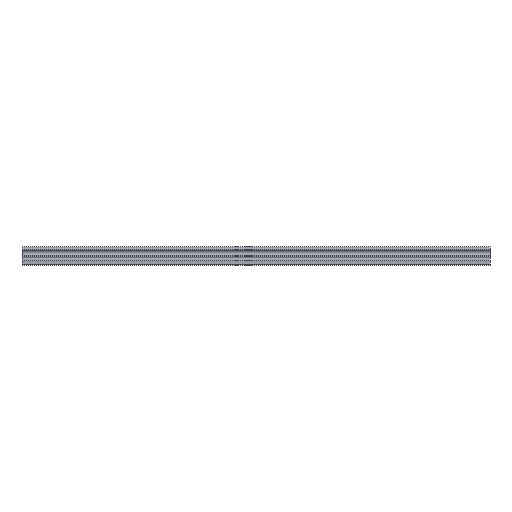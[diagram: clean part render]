
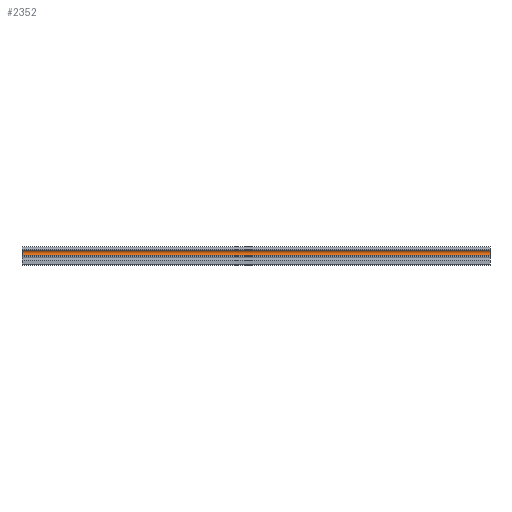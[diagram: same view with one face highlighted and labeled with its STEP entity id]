
A CAD part, top view. The second image highlights one B-rep face of the part: STEP entity #2352.
In plain terms, the highlighted cylindrical face has radius 2.82 mm (diameter 5.64 mm), a partial arc.
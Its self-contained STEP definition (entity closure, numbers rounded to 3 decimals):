
#79 = EDGE_CURVE ( 'NONE', #1572, #2578, #2836, .T. ) ;
#86 = EDGE_CURVE ( 'NONE', #1780, #2578, #1740, .T. ) ;
#142 = EDGE_CURVE ( 'NONE', #1203, #1572, #443, .T. ) ;
#202 = CIRCLE ( 'NONE', #1167, 2.82 ) ;
#218 = ORIENTED_EDGE ( 'NONE', *, *, #86, .F. ) ;
#232 = CARTESIAN_POINT ( 'NONE',  ( 480., 15.498, 8.85 ) ) ;
#270 = ORIENTED_EDGE ( 'NONE', *, *, #1609, .F. ) ;
#326 = CARTESIAN_POINT ( 'NONE',  ( 0., 9.902, 8.85 ) ) ;
#371 = FACE_OUTER_BOUND ( 'NONE', #701, .T. ) ;
#401 = DIRECTION ( 'NONE',  ( -1., 0., 0. ) ) ;
#428 = AXIS2_PLACEMENT_3D ( 'NONE', #1935, #1889, #1234 ) ;
#443 = LINE ( 'NONE', #232, #1953 ) ;
#701 = EDGE_LOOP ( 'NONE', ( #1984, #218, #270, #2774 ) ) ;
#937 = DIRECTION ( 'NONE',  ( -1., 0., 0. ) ) ;
#995 = CYLINDRICAL_SURFACE ( 'NONE', #428, 2.82 ) ;
#1079 = DIRECTION ( 'NONE',  ( -1., 0., 0. ) ) ;
#1167 = AXIS2_PLACEMENT_3D ( 'NONE', #1620, #937, #1187 ) ;
#1187 = DIRECTION ( 'NONE',  ( 0., 0., -1. ) ) ;
#1203 = VERTEX_POINT ( 'NONE', #2188 ) ;
#1234 = DIRECTION ( 'NONE',  ( 0., 0., 1. ) ) ;
#1292 = AXIS2_PLACEMENT_3D ( 'NONE', #2224, #2643, #2660 ) ;
#1388 = CARTESIAN_POINT ( 'NONE',  ( 0., 15.498, 8.85 ) ) ;
#1572 = VERTEX_POINT ( 'NONE', #1388 ) ;
#1609 = EDGE_CURVE ( 'NONE', #1203, #1780, #202, .T. ) ;
#1620 = CARTESIAN_POINT ( 'NONE',  ( 480., 12.7, 9.2 ) ) ;
#1740 = LINE ( 'NONE', #1945, #1999 ) ;
#1780 = VERTEX_POINT ( 'NONE', #2860 ) ;
#1889 = DIRECTION ( 'NONE',  ( -1., 0., 0. ) ) ;
#1935 = CARTESIAN_POINT ( 'NONE',  ( 480., 12.7, 9.2 ) ) ;
#1945 = CARTESIAN_POINT ( 'NONE',  ( 480., 9.902, 8.85 ) ) ;
#1953 = VECTOR ( 'NONE', #1079, 1000. ) ;
#1984 = ORIENTED_EDGE ( 'NONE', *, *, #79, .T. ) ;
#1999 = VECTOR ( 'NONE', #401, 1000. ) ;
#2188 = CARTESIAN_POINT ( 'NONE',  ( 480., 15.498, 8.85 ) ) ;
#2224 = CARTESIAN_POINT ( 'NONE',  ( 0., 12.7, 9.2 ) ) ;
#2352 = ADVANCED_FACE ( 'NONE', ( #371 ), #995, .F. ) ;
#2578 = VERTEX_POINT ( 'NONE', #326 ) ;
#2643 = DIRECTION ( 'NONE',  ( -1., 0., 0. ) ) ;
#2660 = DIRECTION ( 'NONE',  ( 0., 0., -1. ) ) ;
#2774 = ORIENTED_EDGE ( 'NONE', *, *, #142, .T. ) ;
#2836 = CIRCLE ( 'NONE', #1292, 2.82 ) ;
#2860 = CARTESIAN_POINT ( 'NONE',  ( 480., 9.902, 8.85 ) ) ;
